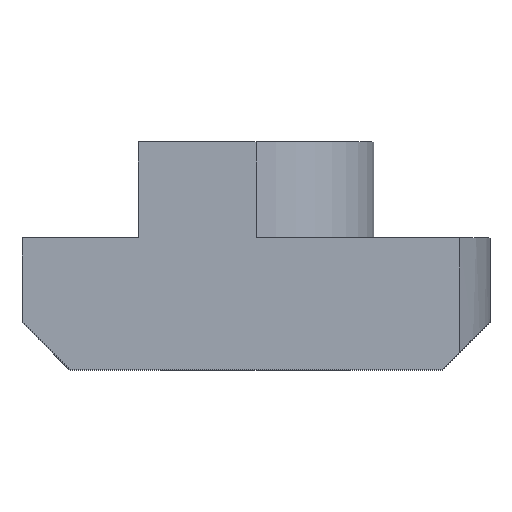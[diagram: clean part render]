
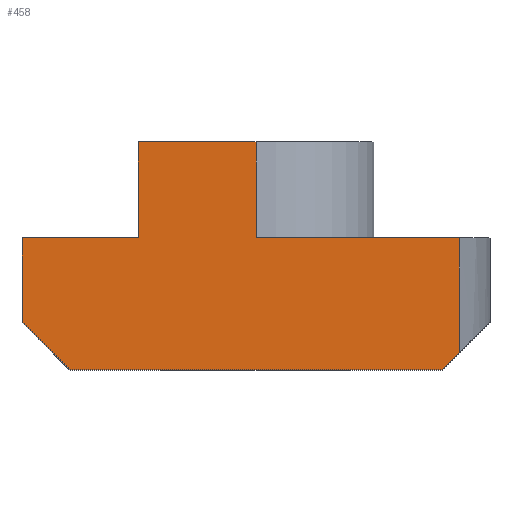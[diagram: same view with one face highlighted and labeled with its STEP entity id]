
A CAD part, top view. The second image highlights one B-rep face of the part: STEP entity #458.
In plain terms, the highlighted planar face has unit normal (0, 0, 1).
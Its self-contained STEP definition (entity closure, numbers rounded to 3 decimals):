
#6=DIRECTION('',(1.,0.,0.));
#7=VECTOR('',#6,4.9);
#8=CARTESIAN_POINT('',(-4.9,4.,4.9));
#9=LINE('',#8,#7);
#70=DIRECTION('',(1.,0.,0.));
#71=VECTOR('',#70,4.85);
#72=CARTESIAN_POINT('',(-9.75,0.,4.9));
#73=LINE('',#72,#71);
#83=DIRECTION('',(-1.,0.,0.));
#84=VECTOR('',#83,8.467);
#85=CARTESIAN_POINT('',(8.467,0.,4.9));
#86=LINE('',#85,#84);
#113=DIRECTION('',(0.,1.,0.));
#114=VECTOR('',#113,4.783);
#115=CARTESIAN_POINT('',(8.467,-4.783,4.9));
#116=LINE('',#115,#114);
#117=DIRECTION('',(0.,1.,0.));
#118=VECTOR('',#117,3.5);
#119=CARTESIAN_POINT('',(-9.75,-3.5,4.9));
#120=LINE('',#119,#118);
#121=DIRECTION('',(0.,1.,0.));
#122=VECTOR('',#121,4.);
#123=CARTESIAN_POINT('',(-4.9,0.,4.9));
#124=LINE('',#123,#122);
#125=DIRECTION('',(0.,1.,0.));
#126=VECTOR('',#125,4.);
#127=CARTESIAN_POINT('',(0.,0.,4.9));
#128=LINE('',#127,#126);
#137=DIRECTION('',(0.707,0.707,0.));
#138=VECTOR('',#137,1.014);
#139=CARTESIAN_POINT('',(7.75,-5.5,4.9));
#140=LINE('',#139,#138);
#155=DIRECTION('',(-1.,0.,0.));
#156=VECTOR('',#155,15.5);
#157=CARTESIAN_POINT('',(7.75,-5.5,4.9));
#158=LINE('',#157,#156);
#191=DIRECTION('',(-0.707,0.707,0.));
#192=VECTOR('',#191,2.828);
#193=CARTESIAN_POINT('',(-7.75,-5.5,4.9));
#194=LINE('',#193,#192);
#225=CARTESIAN_POINT('',(-9.75,0.,4.9));
#226=CARTESIAN_POINT('',(-4.9,0.,4.9));
#227=VERTEX_POINT('',#225);
#228=VERTEX_POINT('',#226);
#233=CARTESIAN_POINT('',(-4.9,4.,4.9));
#234=VERTEX_POINT('',#233);
#237=CARTESIAN_POINT('',(0.,4.,4.9));
#239=VERTEX_POINT('',#237);
#247=CARTESIAN_POINT('',(0.,0.,4.9));
#248=VERTEX_POINT('',#247);
#255=CARTESIAN_POINT('',(8.467,0.,4.9));
#256=VERTEX_POINT('',#255);
#273=CARTESIAN_POINT('',(-7.75,-5.5,4.9));
#275=VERTEX_POINT('',#273);
#277=CARTESIAN_POINT('',(-9.75,-3.5,4.9));
#279=VERTEX_POINT('',#277);
#284=CARTESIAN_POINT('',(7.75,-5.5,4.9));
#286=VERTEX_POINT('',#284);
#291=CARTESIAN_POINT('',(8.467,-4.783,4.9));
#292=VERTEX_POINT('',#291);
#436=CARTESIAN_POINT('',(-4.9,0.,4.9));
#437=DIRECTION('',(0.,0.,1.));
#438=DIRECTION('',(1.,0.,0.));
#439=AXIS2_PLACEMENT_3D('',#436,#437,#438);
#440=PLANE('',#439);
#441=ORIENTED_EDGE('',*,*,#398,.F.);
#443=ORIENTED_EDGE('',*,*,#442,.F.);
#445=ORIENTED_EDGE('',*,*,#444,.F.);
#447=ORIENTED_EDGE('',*,*,#446,.T.);
#449=ORIENTED_EDGE('',*,*,#448,.T.);
#451=ORIENTED_EDGE('',*,*,#450,.T.);
#452=ORIENTED_EDGE('',*,*,#384,.T.);
#453=ORIENTED_EDGE('',*,*,#430,.T.);
#454=ORIENTED_EDGE('',*,*,#300,.T.);
#455=ORIENTED_EDGE('',*,*,#329,.F.);
#456=EDGE_LOOP('',(#441,#443,#445,#447,#449,#451,#452,#453,#454,#455));
#457=FACE_OUTER_BOUND('',#456,.F.);
#458=ADVANCED_FACE('',(#457),#440,.T.);
#300=EDGE_CURVE('',#234,#239,#9,.T.);
#329=EDGE_CURVE('',#248,#239,#128,.T.);
#384=EDGE_CURVE('',#227,#228,#73,.T.);
#398=EDGE_CURVE('',#256,#248,#86,.T.);
#430=EDGE_CURVE('',#228,#234,#124,.T.);
#442=EDGE_CURVE('',#292,#256,#116,.T.);
#444=EDGE_CURVE('',#286,#292,#140,.T.);
#446=EDGE_CURVE('',#286,#275,#158,.T.);
#448=EDGE_CURVE('',#275,#279,#194,.T.);
#450=EDGE_CURVE('',#279,#227,#120,.T.);
